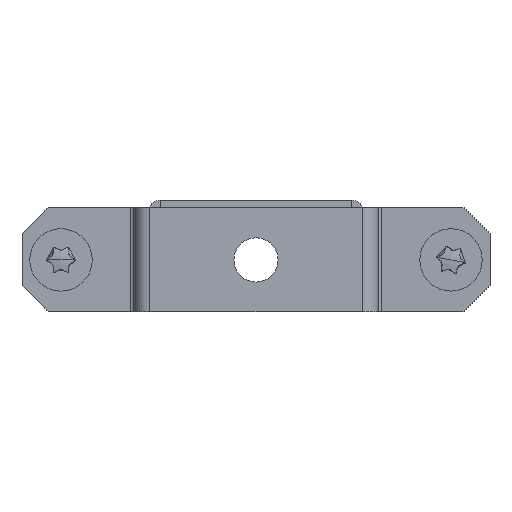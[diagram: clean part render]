
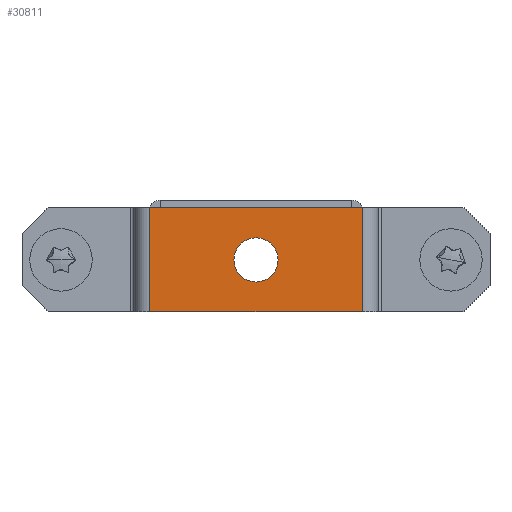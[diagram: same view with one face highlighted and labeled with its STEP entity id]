
A CAD part, front view. The second image highlights one B-rep face of the part: STEP entity #30811.
In plain terms, the highlighted planar face has unit normal (0, -1, 0).
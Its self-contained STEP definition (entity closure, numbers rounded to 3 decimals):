
#30196=CARTESIAN_POINT(' ',(0.,-2.5,4.25));
#30197=VERTEX_POINT(' ',#30196);
#30211=CARTESIAN_POINT(' ',(0.,-2.5,0.));
#30216=DIRECTION(' ',(0.,-1.,0.));
#30221=DIRECTION(' ',(0.,0.,1.));
#30226=AXIS2_PLACEMENT_3D(' ',#30211,#30216,#30221);
#30231=CIRCLE('',#30226,4.25);
#30236=CARTESIAN_POINT(' ',(0.,-2.5,-4.25));
#30237=VERTEX_POINT(' ',#30236);
#30241=EDGE_CURVE(' ',#30197,#30237,#30231,.T.);
#30566=CARTESIAN_POINT(' ',(0.,-2.5,0.));
#30571=DIRECTION(' ',(-0.,-1.,0.));
#30576=DIRECTION(' ',(0.,0.,-1.));
#30581=AXIS2_PLACEMENT_3D(' ',#30566,#30571,#30576);
#30586=CIRCLE('',#30581,4.25);
#30591=EDGE_CURVE(' ',#30237,#30197,#30586,.T.);
#30616=DIRECTION(' ',(-0.,-1.,-0.));
#30621=CARTESIAN_POINT(' ',(-20.4,-2.5,-10.));
#30626=DIRECTION(' ',(1.,0.,-0.));
#30631=AXIS2_PLACEMENT_3D(' ',#30621,#30616,#30626);
#30636=PLANE('NONE',#30631);
#30641=CARTESIAN_POINT(' ',(-20.4,-2.5,-10.));
#30646=DIRECTION(' ',(0.,0.,1.));
#30651=VECTOR(' ',#30646,1.);
#30656=LINE('',#30641,#30651);
#30661=CARTESIAN_POINT(' ',(-20.4,-2.5,-10.));
#30662=VERTEX_POINT(' ',#30661);
#30666=CARTESIAN_POINT(' ',(-20.4,-2.5,10.));
#30667=VERTEX_POINT(' ',#30666);
#30671=EDGE_CURVE(' ',#30662,#30667,#30656,.T.);
#30676=ORIENTED_EDGE(' ',*,*,#30671,.F.);
#30681=CARTESIAN_POINT(' ',(-20.4,-2.5,-10.));
#30686=DIRECTION(' ',(1.,0.,0.));
#30691=VECTOR(' ',#30686,1.);
#30696=LINE('',#30681,#30691);
#30701=CARTESIAN_POINT(' ',(20.4,-2.5,-10.));
#30702=VERTEX_POINT(' ',#30701);
#30706=EDGE_CURVE(' ',#30662,#30702,#30696,.T.);
#30711=ORIENTED_EDGE(' ',*,*,#30706,.T.);
#30716=CARTESIAN_POINT(' ',(20.4,-2.5,10.));
#30721=DIRECTION(' ',(0.,0.,-1.));
#30726=VECTOR(' ',#30721,1.);
#30731=LINE('',#30716,#30726);
#30736=CARTESIAN_POINT(' ',(20.4,-2.5,10.));
#30737=VERTEX_POINT(' ',#30736);
#30741=EDGE_CURVE(' ',#30737,#30702,#30731,.T.);
#30746=ORIENTED_EDGE(' ',*,*,#30741,.F.);
#30751=CARTESIAN_POINT(' ',(-20.4,-2.5,10.));
#30756=DIRECTION(' ',(1.,0.,0.));
#30761=VECTOR(' ',#30756,1.);
#30766=LINE('',#30751,#30761);
#30771=EDGE_CURVE(' ',#30667,#30737,#30766,.T.);
#30776=ORIENTED_EDGE(' ',*,*,#30771,.F.);
#30781=EDGE_LOOP(' ',(#30676,#30711,#30746,#30776));
#30786=FACE_OUTER_BOUND(' ',#30781,.T.);
#30791=ORIENTED_EDGE(' ',*,*,#30591,.F.);
#30796=ORIENTED_EDGE(' ',*,*,#30241,.F.);
#30801=EDGE_LOOP(' ',(#30791,#30796));
#30806=FACE_BOUND(' ',#30801,.T.);
#30811=ADVANCED_FACE('NONE',(#30786,#30806),#30636,.T.);
